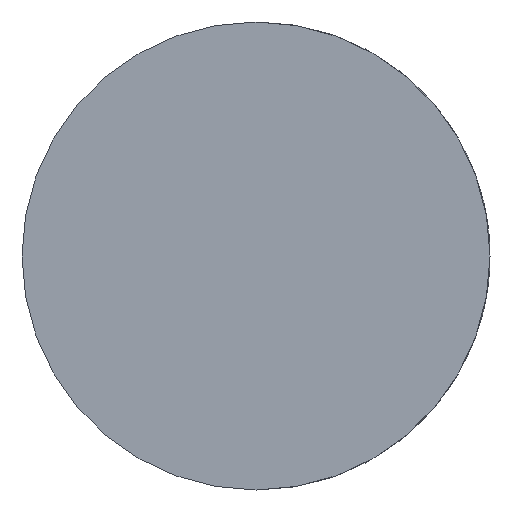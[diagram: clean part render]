
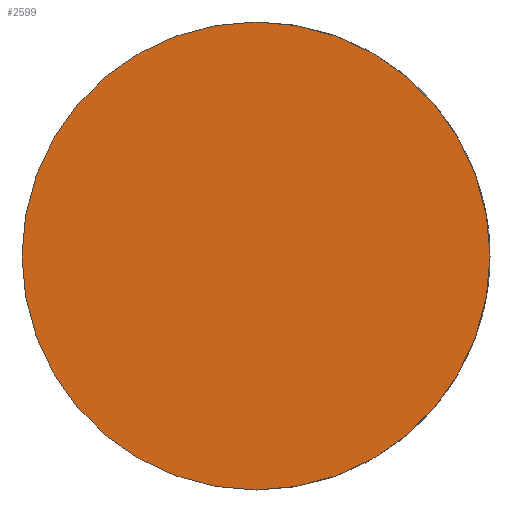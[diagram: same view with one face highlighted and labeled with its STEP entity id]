
A CAD part, front view. The second image highlights one B-rep face of the part: STEP entity #2599.
In plain terms, the highlighted planar face has unit normal (0, -1, 0).
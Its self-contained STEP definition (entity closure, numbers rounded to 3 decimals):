
#25 = EDGE_LOOP ( 'NONE', ( #1126, #2586 ) ) ;
#68 = CIRCLE ( 'NONE', #2020, 15. ) ;
#716 = DIRECTION ( 'NONE',  ( 0., 0., -1. ) ) ;
#780 = DIRECTION ( 'NONE',  ( 0., -1., 0. ) ) ;
#958 = VERTEX_POINT ( 'NONE', #1031 ) ;
#1031 = CARTESIAN_POINT ( 'NONE',  ( 0., 0., 15. ) ) ;
#1126 = ORIENTED_EDGE ( 'NONE', *, *, #1843, .T. ) ;
#1235 = CARTESIAN_POINT ( 'NONE',  ( 0., 0., 0. ) ) ;
#1247 = VERTEX_POINT ( 'NONE', #2520 ) ;
#1263 = CARTESIAN_POINT ( 'NONE',  ( 0., 0., 0. ) ) ;
#1289 = DIRECTION ( 'NONE',  ( 0., 0., -1. ) ) ;
#1367 = CARTESIAN_POINT ( 'NONE',  ( 0., 0., 0. ) ) ;
#1376 = EDGE_CURVE ( 'NONE', #1247, #958, #68, .T. ) ;
#1554 = CIRCLE ( 'NONE', #2198, 15. ) ;
#1592 = FACE_OUTER_BOUND ( 'NONE', #25, .T. ) ;
#1843 = EDGE_CURVE ( 'NONE', #958, #1247, #1554, .T. ) ;
#1920 = DIRECTION ( 'NONE',  ( 0., 0., -1. ) ) ;
#1937 = AXIS2_PLACEMENT_3D ( 'NONE', #1367, #2712, #716 ) ;
#2020 = AXIS2_PLACEMENT_3D ( 'NONE', #1263, #2561, #1289 ) ;
#2198 = AXIS2_PLACEMENT_3D ( 'NONE', #1235, #780, #1920 ) ;
#2493 = PLANE ( 'NONE',  #1937 ) ;
#2520 = CARTESIAN_POINT ( 'NONE',  ( 0., 0., -15. ) ) ;
#2561 = DIRECTION ( 'NONE',  ( 0., -1., 0. ) ) ;
#2586 = ORIENTED_EDGE ( 'NONE', *, *, #1376, .T. ) ;
#2599 = ADVANCED_FACE ( 'NONE', ( #1592 ), #2493, .T. ) ;
#2712 = DIRECTION ( 'NONE',  ( 0., -1., 0. ) ) ;
